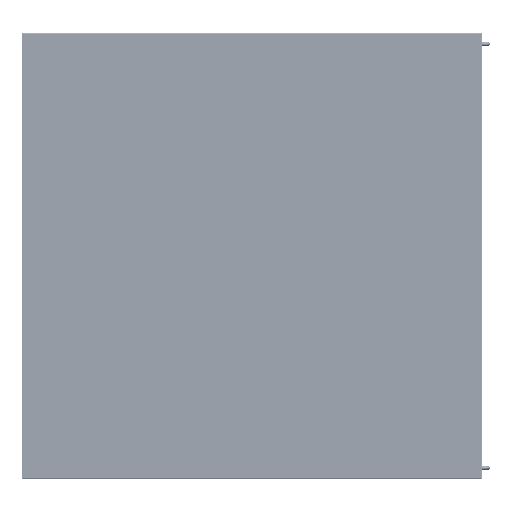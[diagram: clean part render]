
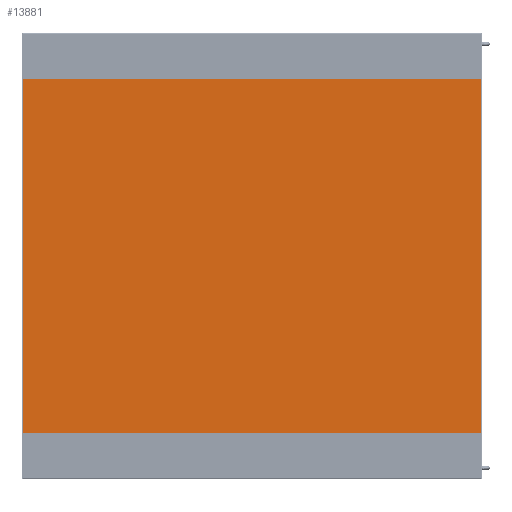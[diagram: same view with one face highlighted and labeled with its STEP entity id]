
A CAD part, left-side view. The second image highlights one B-rep face of the part: STEP entity #13881.
In plain terms, the highlighted planar face has unit normal (-1, 0, 0) as drawn and (0, 1, 0) by its records, which use the part's own axes.
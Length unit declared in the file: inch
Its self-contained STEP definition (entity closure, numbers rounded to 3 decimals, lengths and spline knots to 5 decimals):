
#13650=CARTESIAN_POINT('',(28.97,0.,35.866));
#13651=DIRECTION('',(0.,1.,0.));
#13652=DIRECTION('',(0.,0.,1.));
#13653=AXIS2_PLACEMENT_3D('',#13650,#13651,#13652);
#13658=CARTESIAN_POINT('',(-28.97,0.,35.866));
#13659=DIRECTION('',(0.,1.,0.));
#13660=DIRECTION('',(-1.,0.,0.));
#13661=AXIS2_PLACEMENT_3D('',#13658,#13659,#13660);
#13666=CARTESIAN_POINT('',(-28.97,0.,-39.04259));
#13667=DIRECTION('',(0.,1.,0.));
#13668=DIRECTION('',(0.,0.,-1.));
#13669=AXIS2_PLACEMENT_3D('',#13666,#13667,#13668);
#13674=DIRECTION('',(-1.,0.,0.));
#13675=VECTOR('',#13674,57.94);
#13676=CARTESIAN_POINT('',(28.97,0.,-39.07259));
#13677=LINE('',#13676,#13675);
#13681=CARTESIAN_POINT('',(28.97,0.,-39.04259));
#13682=DIRECTION('',(0.,1.,0.));
#13683=DIRECTION('',(1.,0.,0.));
#13684=AXIS2_PLACEMENT_3D('',#13681,#13682,#13683);
#13696=DIRECTION('',(0.,0.,-1.));
#13697=VECTOR('',#13696,74.90859);
#13698=CARTESIAN_POINT('',(29.,0.,35.866));
#13699=LINE('',#13698,#13697);
#13752=DIRECTION('',(0.,0.,1.));
#13753=VECTOR('',#13752,74.90859);
#13754=CARTESIAN_POINT('',(-29.,0.,-39.04259));
#13755=LINE('',#13754,#13753);
#13780=DIRECTION('',(-1.,0.,0.));
#13781=VECTOR('',#13780,57.94);
#13782=CARTESIAN_POINT('',(28.97,0.,35.896));
#13783=LINE('',#13782,#13781);
#13826=CARTESIAN_POINT('',(28.97,0.,35.896));
#13827=CARTESIAN_POINT('',(29.,0.,35.866));
#13828=VERTEX_POINT('',#13826);
#13829=VERTEX_POINT('',#13827);
#13834=CARTESIAN_POINT('',(-29.,0.,35.866));
#13835=CARTESIAN_POINT('',(-28.97,0.,35.896));
#13836=VERTEX_POINT('',#13834);
#13837=VERTEX_POINT('',#13835);
#13842=CARTESIAN_POINT('',(-29.,0.,-39.04259));
#13843=VERTEX_POINT('',#13842);
#13844=CARTESIAN_POINT('',(29.,0.,-39.04259));
#13845=VERTEX_POINT('',#13844);
#13850=CARTESIAN_POINT('',(-28.97,0.,-39.07259));
#13851=VERTEX_POINT('',#13850);
#13854=CARTESIAN_POINT('',(28.97,0.,-39.07259));
#13855=VERTEX_POINT('',#13854);
#13858=CARTESIAN_POINT('',(29.,0.,35.896));
#13859=DIRECTION('',(0.,1.,0.));
#13860=DIRECTION('',(-1.,0.,0.));
#13861=AXIS2_PLACEMENT_3D('',#13858,#13859,#13860);
#13862=PLANE('',#13861);
#13864=ORIENTED_EDGE('',*,*,#13863,.F.);
#13866=ORIENTED_EDGE('',*,*,#13865,.T.);
#13868=ORIENTED_EDGE('',*,*,#13867,.F.);
#13870=ORIENTED_EDGE('',*,*,#13869,.F.);
#13872=ORIENTED_EDGE('',*,*,#13871,.F.);
#13874=ORIENTED_EDGE('',*,*,#13873,.F.);
#13876=ORIENTED_EDGE('',*,*,#13875,.F.);
#13878=ORIENTED_EDGE('',*,*,#13877,.F.);
#13879=EDGE_LOOP('',(#13864,#13866,#13868,#13870,#13872,#13874,#13876,#13878));
#13880=FACE_OUTER_BOUND('',#13879,.F.);
#13654=CIRCLE('',#13653,0.03);
#13662=CIRCLE('',#13661,0.03);
#13670=CIRCLE('',#13669,0.03);
#13685=CIRCLE('',#13684,0.03);
#13863=EDGE_CURVE('',#13828,#13829,#13654,.T.);
#13865=EDGE_CURVE('',#13828,#13837,#13783,.T.);
#13867=EDGE_CURVE('',#13836,#13837,#13662,.T.);
#13869=EDGE_CURVE('',#13843,#13836,#13755,.T.);
#13871=EDGE_CURVE('',#13851,#13843,#13670,.T.);
#13873=EDGE_CURVE('',#13855,#13851,#13677,.T.);
#13875=EDGE_CURVE('',#13845,#13855,#13685,.T.);
#13877=EDGE_CURVE('',#13829,#13845,#13699,.T.);
#13881=ADVANCED_FACE('',(#13880),#13862,.T.);
